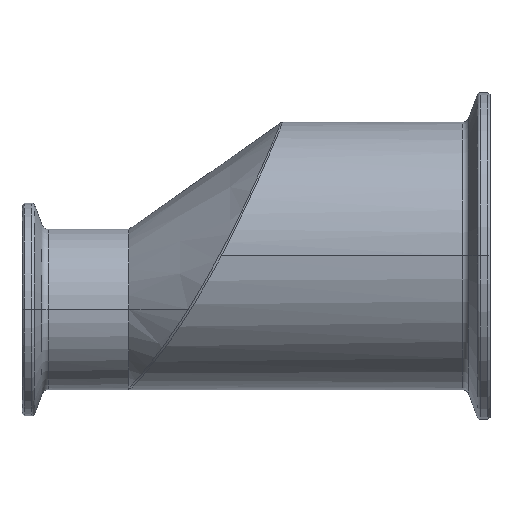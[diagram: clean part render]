
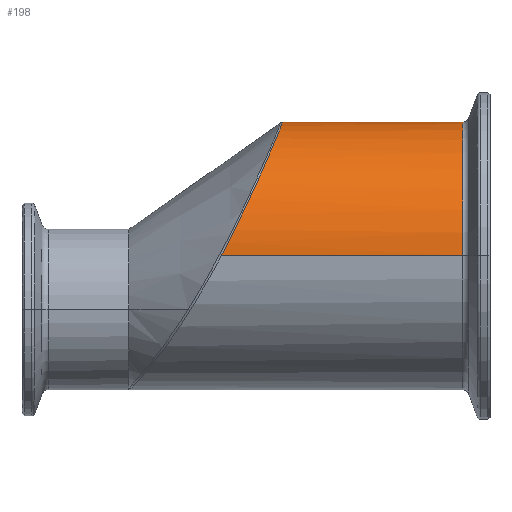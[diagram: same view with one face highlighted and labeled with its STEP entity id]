
A CAD part, top view. The second image highlights one B-rep face of the part: STEP entity #198.
In plain terms, the highlighted cylindrical face has radius 31.75 mm (diameter 63.5 mm), a partial arc.
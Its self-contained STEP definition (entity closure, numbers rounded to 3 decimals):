
#25 = DIRECTION ( 'NONE',  ( 0., 0., 1. ) ) ;
#29 = ORIENTED_EDGE ( 'NONE', *, *, #776, .F. ) ;
#124 = ORIENTED_EDGE ( 'NONE', *, *, #1659, .T. ) ;
#140 = CARTESIAN_POINT ( 'NONE',  ( 56.346, 18.598, -25.738 ) ) ;
#149 = CARTESIAN_POINT ( 'NONE',  ( 61.161, 29.88, -10.79 ) ) ;
#157 = CARTESIAN_POINT ( 'NONE',  ( 61.252, 30.101, 10.113 ) ) ;
#166 = CARTESIAN_POINT ( 'NONE',  ( 57.098, 20.298, 24.436 ) ) ;
#172 = CARTESIAN_POINT ( 'NONE',  ( 49.373, 3.868, 31.575 ) ) ;
#198 = ADVANCED_FACE ( 'NONE', ( #288 ), #1867, .T. ) ;
#273 = B_SPLINE_CURVE_WITH_KNOTS ( 'NONE', 3,
 ( #2188, #2608, #335, #1782, #527, #1993, #739, #2207, #957, #2409, #1163, #2615, #1363, #140, #1586, #345, #1792, #541, #2004, #751, #2216, #965, #2419, #1171, #2624, #1374, #149, #1599, #354, #1801, #552, #2018, #761, #2228, #975, #2427, #1179, #2631, #1385, #157, #1606, #364, #1807, #563, #2028, #771, #2233, #983, #2438, #1184, #2637, #1395, #166, #1611, #371, #1818, #570, #2036, #778, #2242, #989, #2445, #1193, #2647, #1404, #172, #1622, #378 ),
 .UNSPECIFIED., .F., .F.,
 ( 4, 2, 2, 2, 2, 2, 2, 2, 2, 2, 2, 2, 2, 2, 2, 2, 2, 2, 2, 2, 2, 2, 2, 2, 2, 2, 2, 2, 2, 2, 2, 2, 2, 4 ),
 ( 0.051, 0.058, 0.059, 0.061, 0.064, 0.071, 0.072, 0.074, 0.077, 0.084, 0.086, 0.087, 0.09, 0.094, 0.097, 0.104, 0.105, 0.107, 0.11, 0.113, 0.115, 0.117, 0.123, 0.125, 0.127, 0.13, 0.133, 0.135, 0.136, 0.143, 0.146, 0.148, 0.149, 0.156 ),
 .UNSPECIFIED. ) ;
#288 = FACE_OUTER_BOUND ( 'NONE', #967, .T. ) ;
#335 = CARTESIAN_POINT ( 'NONE',  ( 49.363, 3.85, -31.578 ) ) ;
#345 = CARTESIAN_POINT ( 'NONE',  ( 57.072, 20.238, -24.486 ) ) ;
#354 = CARTESIAN_POINT ( 'NONE',  ( 61.551, 30.833, -7.652 ) ) ;
#364 = CARTESIAN_POINT ( 'NONE',  ( 61.022, 29.541, 11.649 ) ) ;
#371 = CARTESIAN_POINT ( 'NONE',  ( 56.373, 18.659, 25.694 ) ) ;
#378 = CARTESIAN_POINT ( 'NONE',  ( 47.361, 0., 31.75 ) ) ;
#454 = LINE ( 'NONE', #2174, #2121 ) ;
#495 = DIRECTION ( 'NONE',  ( -1., 0., 0. ) ) ;
#508 = VERTEX_POINT ( 'NONE', #516 ) ;
#510 = CARTESIAN_POINT ( 'NONE',  ( 104.607, 0., -31.75 ) ) ;
#516 = CARTESIAN_POINT ( 'NONE',  ( 47.361, 0., -31.75 ) ) ;
#527 = CARTESIAN_POINT ( 'NONE',  ( 50.812, 6.765, -31.025 ) ) ;
#541 = CARTESIAN_POINT ( 'NONE',  ( 58.397, 23.283, -21.685 ) ) ;
#552 = CARTESIAN_POINT ( 'NONE',  ( 61.921, 31.744, -2.279 ) ) ;
#563 = CARTESIAN_POINT ( 'NONE',  ( 60.492, 28.254, 14.646 ) ) ;
#570 = CARTESIAN_POINT ( 'NONE',  ( 55.803, 17.383, 26.574 ) ) ;
#583 = CIRCLE ( 'NONE', #2152, 31.75 ) ;
#585 = AXIS2_PLACEMENT_3D ( 'NONE', #2657, #1398, #1212 ) ;
#667 = EDGE_CURVE ( 'NONE', #894, #2480, #583, .T. ) ;
#668 = CARTESIAN_POINT ( 'NONE',  ( -12.994, 0., 31.75 ) ) ;
#727 = ORIENTED_EDGE ( 'NONE', *, *, #2494, .T. ) ;
#739 = CARTESIAN_POINT ( 'NONE',  ( 51.519, 8.208, -30.675 ) ) ;
#751 = CARTESIAN_POINT ( 'NONE',  ( 59.638, 26.212, -17.924 ) ) ;
#761 = CARTESIAN_POINT ( 'NONE',  ( 61.919, 31.739, 1.007 ) ) ;
#771 = CARTESIAN_POINT ( 'NONE',  ( 59.411, 25.674, 18.687 ) ) ;
#776 = EDGE_CURVE ( 'NONE', #894, #1155, #1565, .T. ) ;
#778 = CARTESIAN_POINT ( 'NONE',  ( 53.99, 13.398, 28.854 ) ) ;
#795 = ORIENTED_EDGE ( 'NONE', *, *, #667, .T. ) ;
#894 = VERTEX_POINT ( 'NONE', #2187 ) ;
#957 = CARTESIAN_POINT ( 'NONE',  ( 52.658, 10.573, -29.954 ) ) ;
#965 = CARTESIAN_POINT ( 'NONE',  ( 60.005, 27.087, -16.572 ) ) ;
#967 = EDGE_LOOP ( 'NONE', ( #795, #124, #727, #29 ) ) ;
#975 = CARTESIAN_POINT ( 'NONE',  ( 61.88, 31.643, 2.66 ) ) ;
#983 = CARTESIAN_POINT ( 'NONE',  ( 58.999, 24.701, 19.955 ) ) ;
#989 = CARTESIAN_POINT ( 'NONE',  ( 52.221, 9.659, 30.262 ) ) ;
#1155 = VERTEX_POINT ( 'NONE', #1667 ) ;
#1163 = CARTESIAN_POINT ( 'NONE',  ( 54.795, 15.147, -27.98 ) ) ;
#1171 = CARTESIAN_POINT ( 'NONE',  ( 60.449, 28.153, -14.718 ) ) ;
#1179 = CARTESIAN_POINT ( 'NONE',  ( 61.745, 31.31, 5.379 ) ) ;
#1184 = CARTESIAN_POINT ( 'NONE',  ( 58.411, 23.321, 21.571 ) ) ;
#1193 = CARTESIAN_POINT ( 'NONE',  ( 51.289, 7.737, 30.797 ) ) ;
#1212 = DIRECTION ( 'NONE',  ( 0., 0., 1. ) ) ;
#1235 = DIRECTION ( 'NONE',  ( -1., 0., 0. ) ) ;
#1300 = DIRECTION ( 'NONE',  ( -1., 0., 0. ) ) ;
#1363 = CARTESIAN_POINT ( 'NONE',  ( 55.968, 17.75, -26.33 ) ) ;
#1374 = CARTESIAN_POINT ( 'NONE',  ( 61.004, 29.496, -11.798 ) ) ;
#1385 = CARTESIAN_POINT ( 'NONE',  ( 61.453, 30.594, 8.558 ) ) ;
#1395 = CARTESIAN_POINT ( 'NONE',  ( 57.442, 21.084, 23.762 ) ) ;
#1398 = DIRECTION ( 'NONE',  ( -1., 0., 0. ) ) ;
#1404 = CARTESIAN_POINT ( 'NONE',  ( 50.576, 6.286, 31.125 ) ) ;
#1565 = LINE ( 'NONE', #668, #2110 ) ;
#1586 = CARTESIAN_POINT ( 'NONE',  ( 56.531, 19.014, -25.432 ) ) ;
#1599 = CARTESIAN_POINT ( 'NONE',  ( 61.435, 30.548, -8.72 ) ) ;
#1606 = CARTESIAN_POINT ( 'NONE',  ( 61.179, 29.924, 10.627 ) ) ;
#1611 = CARTESIAN_POINT ( 'NONE',  ( 56.558, 19.074, 25.387 ) ) ;
#1622 = CARTESIAN_POINT ( 'NONE',  ( 48.382, 1.933, 31.75 ) ) ;
#1659 = EDGE_CURVE ( 'NONE', #2480, #508, #454, .T. ) ;
#1667 = CARTESIAN_POINT ( 'NONE',  ( 47.361, 0., 31.75 ) ) ;
#1782 = CARTESIAN_POINT ( 'NONE',  ( 50.572, 6.279, -31.127 ) ) ;
#1792 = CARTESIAN_POINT ( 'NONE',  ( 57.416, 21.023, -23.815 ) ) ;
#1801 = CARTESIAN_POINT ( 'NONE',  ( 61.828, 31.513, -4.444 ) ) ;
#1807 = CARTESIAN_POINT ( 'NONE',  ( 60.937, 29.336, 12.156 ) ) ;
#1818 = CARTESIAN_POINT ( 'NONE',  ( 55.996, 17.814, 26.287 ) ) ;
#1867 = CYLINDRICAL_SURFACE ( 'NONE', #585, 31.75 ) ;
#1993 = CARTESIAN_POINT ( 'NONE',  ( 51.285, 7.729, -30.799 ) ) ;
#2004 = CARTESIAN_POINT ( 'NONE',  ( 58.985, 24.663, -20.109 ) ) ;
#2018 = CARTESIAN_POINT ( 'NONE',  ( 61.924, 31.751, 0.458 ) ) ;
#2028 = CARTESIAN_POINT ( 'NONE',  ( 60.056, 27.204, 16.509 ) ) ;
#2036 = CARTESIAN_POINT ( 'NONE',  ( 54.821, 15.205, 27.949 ) ) ;
#2110 = VECTOR ( 'NONE', #1300, 1000. ) ;
#2121 = VECTOR ( 'NONE', #495, 1000. ) ;
#2152 = AXIS2_PLACEMENT_3D ( 'NONE', #2491, #1235, #25 ) ;
#2174 = CARTESIAN_POINT ( 'NONE',  ( -12.994, 0., -31.75 ) ) ;
#2187 = CARTESIAN_POINT ( 'NONE',  ( 104.607, 0., 31.75 ) ) ;
#2188 = CARTESIAN_POINT ( 'NONE',  ( 47.361, 0., -31.75 ) ) ;
#2207 = CARTESIAN_POINT ( 'NONE',  ( 52.209, 9.634, -30.269 ) ) ;
#2216 = CARTESIAN_POINT ( 'NONE',  ( 59.764, 26.512, -17.477 ) ) ;
#2228 = CARTESIAN_POINT ( 'NONE',  ( 61.897, 31.685, 2.108 ) ) ;
#2233 = CARTESIAN_POINT ( 'NONE',  ( 59.277, 25.357, 19.115 ) ) ;
#2242 = CARTESIAN_POINT ( 'NONE',  ( 52.672, 10.604, 29.943 ) ) ;
#2409 = CARTESIAN_POINT ( 'NONE',  ( 53.967, 13.349, -28.876 ) ) ;
#2419 = CARTESIAN_POINT ( 'NONE',  ( 60.12, 27.362, -16.114 ) ) ;
#2427 = CARTESIAN_POINT ( 'NONE',  ( 61.812, 31.477, 4.3 ) ) ;
#2438 = CARTESIAN_POINT ( 'NONE',  ( 58.855, 24.361, 20.368 ) ) ;
#2445 = CARTESIAN_POINT ( 'NONE',  ( 51.525, 8.22, 30.671 ) ) ;
#2480 = VERTEX_POINT ( 'NONE', #510 ) ;
#2491 = CARTESIAN_POINT ( 'NONE',  ( 104.607, 0., 0. ) ) ;
#2494 = EDGE_CURVE ( 'NONE', #508, #1155, #273, .T. ) ;
#2608 = CARTESIAN_POINT ( 'NONE',  ( 48.375, 1.918, -31.75 ) ) ;
#2615 = CARTESIAN_POINT ( 'NONE',  ( 55.774, 17.318, -26.616 ) ) ;
#2624 = CARTESIAN_POINT ( 'NONE',  ( 60.647, 28.632, -13.762 ) ) ;
#2631 = CARTESIAN_POINT ( 'NONE',  ( 61.565, 30.869, 7.508 ) ) ;
#2637 = CARTESIAN_POINT ( 'NONE',  ( 58.098, 22.596, 22.329 ) ) ;
#2647 = CARTESIAN_POINT ( 'NONE',  ( 50.815, 6.769, 31.024 ) ) ;
#2657 = CARTESIAN_POINT ( 'NONE',  ( -12.994, 0., 0. ) ) ;
